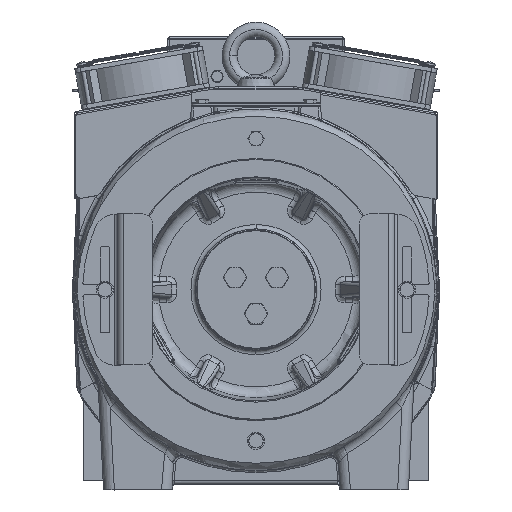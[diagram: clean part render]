
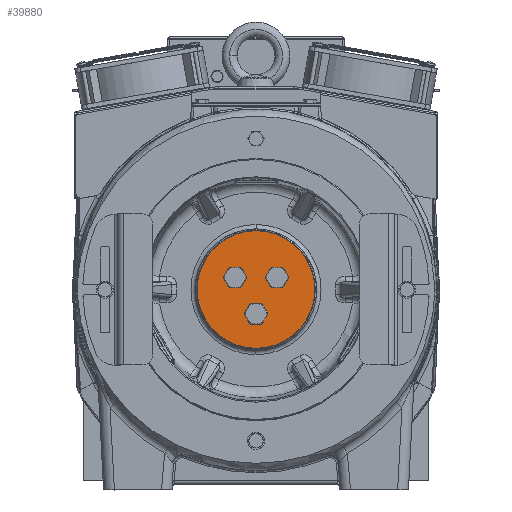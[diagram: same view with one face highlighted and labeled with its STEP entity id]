
A CAD part, top view. The second image highlights one B-rep face of the part: STEP entity #39880.
In plain terms, the highlighted planar face has unit normal (0, 0, 1).
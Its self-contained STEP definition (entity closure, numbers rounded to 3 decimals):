
#39699=CARTESIAN_POINT('',(0.,0.,
324.25));
#39700=DIRECTION('',(0.,0.,-1.));
#39701=DIRECTION('',(1.,0.,0.));
#39702=AXIS2_PLACEMENT_3D('',#39699,#39700,#39701);
#39704=CARTESIAN_POINT('',(0.,0.,
324.25));
#39705=DIRECTION('',(0.,0.,-1.));
#39706=DIRECTION('',(0.,-1.,0.));
#39707=AXIS2_PLACEMENT_3D('',#39704,#39705,#39706);
#39709=CARTESIAN_POINT('',(0.,0.,
324.25));
#39710=DIRECTION('',(0.,0.,-1.));
#39711=DIRECTION('',(-1.,0.,0.));
#39712=AXIS2_PLACEMENT_3D('',#39709,#39710,#39711);
#39714=CARTESIAN_POINT('',(0.,0.,
324.25));
#39715=DIRECTION('',(0.,0.,-1.));
#39716=DIRECTION('',(0.,1.,0.));
#39717=AXIS2_PLACEMENT_3D('',#39714,#39715,#39716);
#39757=CARTESIAN_POINT('',(0.,54.5,
324.25));
#39758=CARTESIAN_POINT('',(54.5,0.,
324.25));
#39759=VERTEX_POINT('',#39757);
#39760=VERTEX_POINT('',#39758);
#39761=CARTESIAN_POINT('',(-54.5,0.,
324.25));
#39762=VERTEX_POINT('',#39761);
#39763=CARTESIAN_POINT('',(0.,-54.5,
324.25));
#39764=VERTEX_POINT('',#39763);
#39867=CARTESIAN_POINT('',(0.,0.,324.25));
#39868=DIRECTION('',(0.,0.,1.));
#39869=DIRECTION('',(-1.,0.,0.));
#39870=AXIS2_PLACEMENT_3D('',#39867,#39868,#39869);
#39871=PLANE('',#39870);
#39873=ORIENTED_EDGE('',*,*,#39872,.T.);
#39875=ORIENTED_EDGE('',*,*,#39874,.T.);
#39876=ORIENTED_EDGE('',*,*,#39856,.T.);
#39877=ORIENTED_EDGE('',*,*,#39854,.T.);
#39878=EDGE_LOOP('',(#39873,#39875,#39876,#39877));
#39879=FACE_OUTER_BOUND('',#39878,.F.);
#39880=ADVANCED_FACE('',(#39879),#39871,.T.);
#39703=CIRCLE('',#39702,54.5);
#39708=CIRCLE('',#39707,54.5);
#39713=CIRCLE('',#39712,54.5);
#39718=CIRCLE('',#39717,54.5);
#39854=EDGE_CURVE('',#39759,#39760,#39718,.T.);
#39856=EDGE_CURVE('',#39762,#39759,#39713,.T.);
#39872=EDGE_CURVE('',#39760,#39764,#39703,.T.);
#39874=EDGE_CURVE('',#39764,#39762,#39708,.T.);
